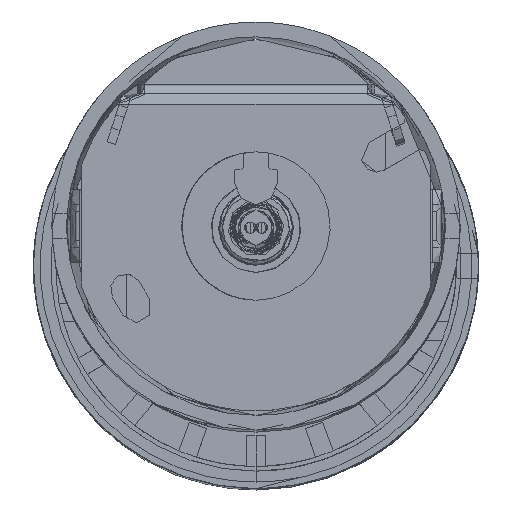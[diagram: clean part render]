
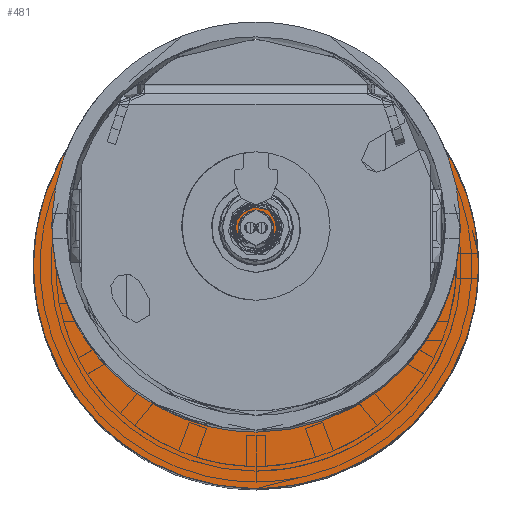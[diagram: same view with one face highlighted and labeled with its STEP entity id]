
A CAD part, top view. The second image highlights one B-rep face of the part: STEP entity #481.
In plain terms, the highlighted planar face has unit normal (0, 0, 1) as drawn and (0, 1, 0) by its records, which use the part's own axes.
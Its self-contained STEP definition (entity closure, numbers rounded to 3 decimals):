
#134=FACE_BOUND('',#1774,.T.);
#481=ADVANCED_FACE('',(#1119,#134),#9984,.T.);
#1119=FACE_OUTER_BOUND('',#1773,.T.);
#1773=EDGE_LOOP('',(#3798,#3799));
#1774=EDGE_LOOP('',(#3800,#3801));
#3798=ORIENTED_EDGE('',*,*,#6295,.F.);
#3799=ORIENTED_EDGE('',*,*,#6292,.F.);
#3800=ORIENTED_EDGE('',*,*,#6297,.T.);
#3801=ORIENTED_EDGE('',*,*,#6288,.T.);
#6288=EDGE_CURVE('',#9324,#9323,#7464,.T.);
#6292=EDGE_CURVE('',#9327,#9328,#7466,.T.);
#6295=EDGE_CURVE('',#9328,#9327,#7468,.T.);
#6297=EDGE_CURVE('',#9323,#9324,#7470,.T.);
#7464=(
BOUNDED_CURVE()
B_SPLINE_CURVE(2,(#19827,#19828,#19829,#19830,#19831),.UNSPECIFIED.,.F.,
 .F.)
B_SPLINE_CURVE_WITH_KNOTS((3,2,3),(-15.865,-7.933,
0.),.UNSPECIFIED.)
CURVE()
GEOMETRIC_REPRESENTATION_ITEM()
RATIONAL_B_SPLINE_CURVE((1.,0.707,1.,0.707,1.))
REPRESENTATION_ITEM('')
);
#7466=(
BOUNDED_CURVE()
B_SPLINE_CURVE(2,(#19841,#19842,#19843,#19844,#19845),.UNSPECIFIED.,.F.,
 .F.)
B_SPLINE_CURVE_WITH_KNOTS((3,2,3),(0.,47.124,94.248),
 .UNSPECIFIED.)
CURVE()
GEOMETRIC_REPRESENTATION_ITEM()
RATIONAL_B_SPLINE_CURVE((1.,0.707,1.,0.707,1.))
REPRESENTATION_ITEM('')
);
#7468=(
BOUNDED_CURVE()
B_SPLINE_CURVE(2,(#19853,#19854,#19855,#19856,#19857),.UNSPECIFIED.,.F.,
 .F.)
B_SPLINE_CURVE_WITH_KNOTS((3,2,3),(0.,47.124,94.248),
 .UNSPECIFIED.)
CURVE()
GEOMETRIC_REPRESENTATION_ITEM()
RATIONAL_B_SPLINE_CURVE((1.,0.707,1.,0.707,1.))
REPRESENTATION_ITEM('')
);
#7470=(
BOUNDED_CURVE()
B_SPLINE_CURVE(2,(#19863,#19864,#19865,#19866,#19867),.UNSPECIFIED.,.F.,
 .F.)
B_SPLINE_CURVE_WITH_KNOTS((3,2,3),(-15.865,-7.933,
0.),.UNSPECIFIED.)
CURVE()
GEOMETRIC_REPRESENTATION_ITEM()
RATIONAL_B_SPLINE_CURVE((1.,0.707,1.,0.707,1.))
REPRESENTATION_ITEM('')
);
#9323=VERTEX_POINT('',#19814);
#9324=VERTEX_POINT('',#19815);
#9327=VERTEX_POINT('',#19818);
#9328=VERTEX_POINT('',#19819);
#9984=PLANE('',#10811);
#10811=AXIS2_PLACEMENT_3D('',#19793,#11093,$);
#11093=DIRECTION('',(0.,1.,0.));
#19793=CARTESIAN_POINT('',(-36.,0.,-36.));
#19814=CARTESIAN_POINT('',(0.,0.,-5.05));
#19815=CARTESIAN_POINT('',(0.,0.,5.05));
#19818=CARTESIAN_POINT('',(0.,0.,-30.));
#19819=CARTESIAN_POINT('',(0.,0.,30.));
#19827=CARTESIAN_POINT('',(0.,0.,5.05));
#19828=CARTESIAN_POINT('',(-5.05,0.,5.05));
#19829=CARTESIAN_POINT('',(-5.05,0.,0.));
#19830=CARTESIAN_POINT('',(-5.05,0.,-5.05));
#19831=CARTESIAN_POINT('',(0.,0.,-5.05));
#19841=CARTESIAN_POINT('',(0.,0.,-30.));
#19842=CARTESIAN_POINT('',(30.,0.,-30.));
#19843=CARTESIAN_POINT('',(30.,0.,0.));
#19844=CARTESIAN_POINT('',(30.,0.,30.));
#19845=CARTESIAN_POINT('',(0.,0.,30.));
#19853=CARTESIAN_POINT('',(0.,0.,30.));
#19854=CARTESIAN_POINT('',(-30.,0.,30.));
#19855=CARTESIAN_POINT('',(-30.,0.,0.));
#19856=CARTESIAN_POINT('',(-30.,0.,-30.));
#19857=CARTESIAN_POINT('',(0.,0.,-30.));
#19863=CARTESIAN_POINT('',(0.,0.,-5.05));
#19864=CARTESIAN_POINT('',(5.05,0.,-5.05));
#19865=CARTESIAN_POINT('',(5.05,0.,0.));
#19866=CARTESIAN_POINT('',(5.05,0.,5.05));
#19867=CARTESIAN_POINT('',(0.,0.,5.05));
